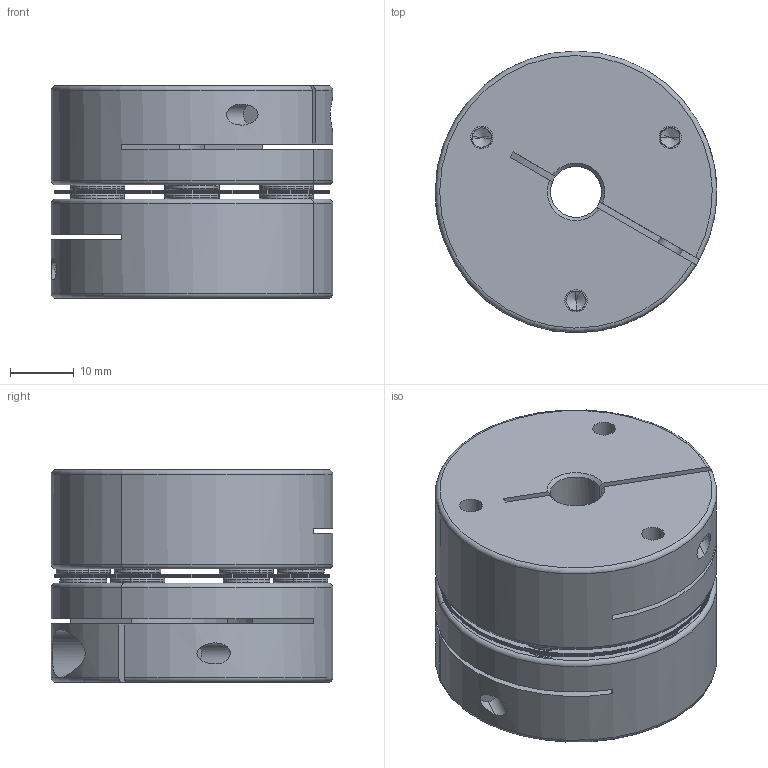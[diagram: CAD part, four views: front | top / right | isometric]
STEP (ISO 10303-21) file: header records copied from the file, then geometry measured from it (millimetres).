
FILE_DESCRIPTION (( 'STEP AP203' ), '1' );
FILE_NAME ('SADS-44C.STEP', '2020-09-10T09:22:48', ( '' ), ( '' ), 'SwSTEP 2.0', 'SolidWorks 2017', '' );
FILE_SCHEMA (( 'CONFIG_CONTROL_DESIGN' ));
Length unit declared in the file: metre
Products named in the file (1): SADS-44C
Bounding box: 44 x 44 x 33.2 mm (x, y, z)
Volume: 38346.5 mm3; surface area: 27580.5 mm2
Topology: 26 solids, 26 shells, 630 faces, 1416 edges, 840 vertices
Faces by surface type: cylinder 233, plane 180, cone 115, torus 102
Entity records: 17974 total; most frequent: DIRECTION 3421, CARTESIAN_POINT 3211, ORIENTED_EDGE 2784, AXIS2_PLACEMENT_3D 1422, EDGE_CURVE 1392, VERTEX_POINT 840, CIRCLE 791, EDGE_LOOP 772
